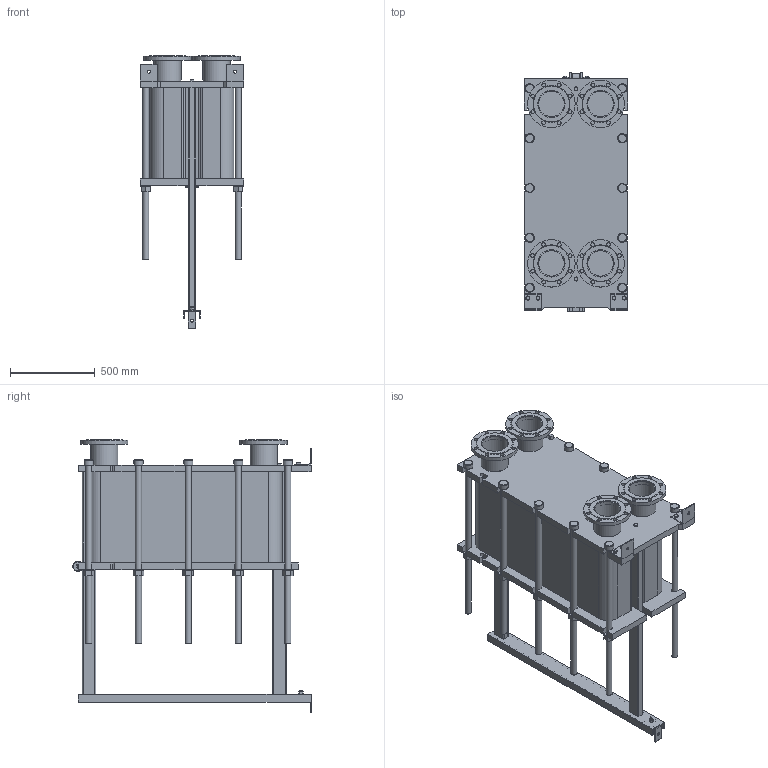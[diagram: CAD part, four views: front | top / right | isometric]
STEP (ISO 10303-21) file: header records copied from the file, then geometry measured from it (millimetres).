
FILE_DESCRIPTION(/* description */ (''),/* implementation_level */ '2;1');
FILE_NAME(/* name */ 'C:\Users\zhuro\Desktop\ENCO\TO\ЭН-041\ЭН-0,5-041-156-1.stp',/* time_stamp */ '2022-06-06T11:02:24+03:00',/* author */ ('zhuro'),/* organization */ (''),/* preprocessor_version */ 'ST-DEVELOPER v18.1',/* originating_system */ 'Autodesk Inventor 2022',/* authorisation */ '');
FILE_SCHEMA (('AUTOMOTIVE_DESIGN { 1 0 10303 214 3 1 1 }'));
Length unit declared in the file: millimetre
Products named in the file (1): ЭН-0,5-041-156-1
Bounding box: 610 x 1406.5 x 1610 mm (x, y, z)
Volume: 387112158.6 mm3; surface area: 10259265.2 mm2
Topology: 52 solids, 52 shells, 711 faces, 1696 edges, 1094 vertices
Faces by surface type: plane 487, cylinder 177, cone 41, torus 6
Full cylindrical faces by diameter (mm): 8 x4, 10 x2, 16 x8, 18 x3, 22 x32, 36 x24, 50 x1, 54 x10, 60 x12, 151 x4, 161 x8, 280 x4
Entity records: 22667 total; most frequent: CARTESIAN_POINT 5230, DIRECTION 3644, ORIENTED_EDGE 3392, EDGE_CURVE 1696, AXIS2_PLACEMENT_3D 1272, LINE 1100, VECTOR 1100, VERTEX_POINT 1094
